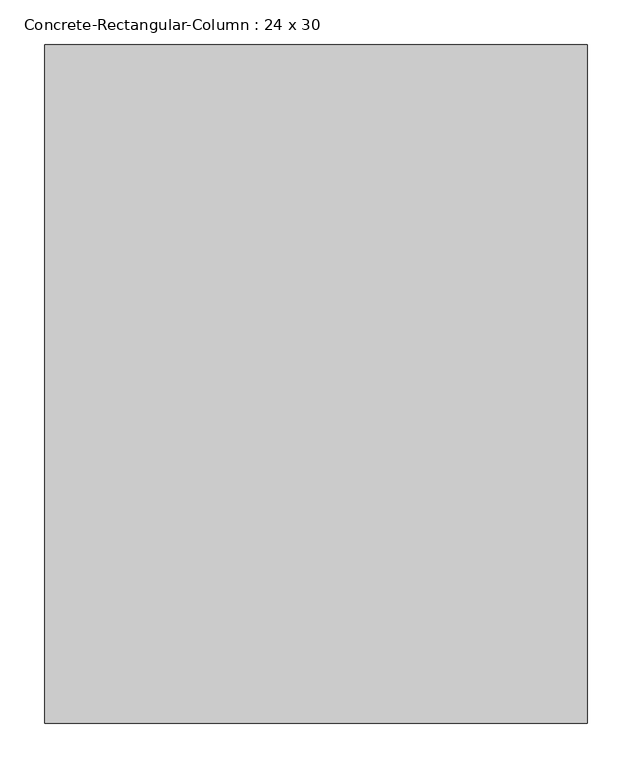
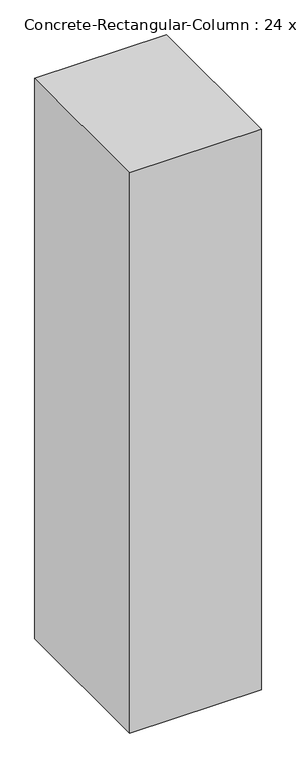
"""IFC4 building model written with IfcOpenShell, lengths in millimetres: column geometry, Concrete-Rectangular-Column : 24 x 30."""

import ifcopenshell
import ifcopenshell.guid

model = None  # the IFC model being written
_history = None  # IfcOwnerHistory: only IFC2X3 demands one
_inside = {}  # id of a spatial element -> (the spatial element, [elements in it])
_under = {}  # id of a project, library or spatial element -> (it, [spatial elements below it])
_declared = {}  # id of a project -> (the project, [libraries it declares])
_typed = {}  # id of a type object -> (the type object, [elements of that type])
_made_of = {}  # id of a material, layer set ... -> (it, [elements and type objects made of it])


def new_model(schema):
    """Start an empty IFC model of exactly this schema.

    Asked for "IFC4X3", IfcOpenShell would pick the latest addendum, in which some entities
    have other attributes; the version numbers below select the first issue.
    IFC2X3 requires an IfcOwnerHistory on every rooted entity: one is made here for all.
    """
    global model, _history
    if schema == "IFC4X3":
        model = ifcopenshell.file(schema_version=(4, 3, 0, 0))
    else:
        model = ifcopenshell.file(schema=schema)
    _inside.clear()
    _under.clear()
    _declared.clear()
    _typed.clear()
    _made_of.clear()
    _history = None
    if model.schema == "IFC2X3":
        org = make("IfcOrganization", Name="unknown")
        user = make(
            "IfcPersonAndOrganization",
            ThePerson=make("IfcPerson", FamilyName="unknown"),
            TheOrganization=org,
        )
        app = make(
            "IfcApplication",
            ApplicationDeveloper=org,
            Version="unknown",
            ApplicationFullName="unknown",
            ApplicationIdentifier="unknown",
        )
        _history = make(
            "IfcOwnerHistory",
            OwningUser=user,
            OwningApplication=app,
            ChangeAction="ADDED",
            CreationDate=0,
        )
    return model


def make(cls, **values):
    """One entity of the class cls with the attributes given. An attribute that is None is left unset."""
    return model.create_entity(
        cls, **{name: value for name, value in values.items() if value is not None}
    )


def rooted(cls, **values):
    """An entity with a GlobalId (a new one), such as an element, a storey or a relation."""
    return make(cls, GlobalId=ifcopenshell.guid.new(), OwnerHistory=_history, **values)


def si_unit(unit_type, name, prefix=None):
    """IfcSIUnit, for example si_unit("LENGTHUNIT", "METRE", prefix="MILLI")."""
    return make("IfcSIUnit", UnitType=unit_type, Prefix=prefix, Name=name)


def assignment(units):
    """IfcUnitAssignment: the units of a project."""
    return None if units is None else make("IfcUnitAssignment", Units=units)


def point(xyz):
    """IfcCartesianPoint."""
    return None if xyz is None else make("IfcCartesianPoint", Coordinates=xyz)


def direction(xyz):
    """IfcDirection."""
    return None if xyz is None else make("IfcDirection", DirectionRatios=xyz)


def frame(location, z_axis=None, x_axis=None):
    """IfcAxis2Placement3D, a coordinate frame: its origin and axes. An axis left out is left unset."""
    return make(
        "IfcAxis2Placement3D",
        Location=point(location),
        Axis=direction(z_axis),
        RefDirection=direction(x_axis),
    )


def origin():
    """The frame at (0, 0, 0) with its axes left unset."""
    return frame((0.0, 0.0, 0.0))


def place(relative_to, where):
    """IfcLocalPlacement: puts the frame where relative to a parent placement (None: the world)."""
    return make(
        "IfcLocalPlacement", PlacementRelTo=relative_to, RelativePlacement=where
    )


def context(
    kind, dimensions, precision=None, world=None, true_north=None, identifier=None
):
    """IfcGeometricRepresentationContext, for example the 3D "Model" context."""
    return make(
        "IfcGeometricRepresentationContext",
        ContextIdentifier=identifier,
        ContextType=kind,
        CoordinateSpaceDimension=dimensions,
        Precision=precision,
        WorldCoordinateSystem=world,
        TrueNorth=true_north,
    )


def project(units=None, contexts=None):
    """IfcProject with its units and contexts."""
    return rooted(
        "IfcProject",
        Name="project",
        RepresentationContexts=contexts,
        UnitsInContext=assignment(units),
    )


def spatial(cls, under=None, at=None, **own):
    """A site, building, storey or space (cls), placed at a placement, below another one or the project."""
    s = rooted(cls, ObjectPlacement=at, **own)
    if under is not None:
        _under.setdefault(under.id(), (under, []))[1].append(s)
    return s


def polyline(points):
    """IfcPolyline through the points."""
    return make("IfcPolyline", Points=[point(p) for p in points])


def outline(outer, holes=None, kind="AREA"):
    """IfcArbitraryClosedProfileDef: a profile drawn as a closed curve; with holes, ...WithVoids."""
    if holes is None:
        return make("IfcArbitraryClosedProfileDef", ProfileType=kind, OuterCurve=outer)
    return make(
        "IfcArbitraryProfileDefWithVoids",
        ProfileType=kind,
        OuterCurve=outer,
        InnerCurves=holes,
    )


def extrude(swept, where, along, depth):
    """IfcExtrudedAreaSolid: the profile swept, set in the frame where, extruded along a direction by depth."""
    return make(
        "IfcExtrudedAreaSolid",
        SweptArea=swept,
        Position=where,
        ExtrudedDirection=direction(along),
        Depth=depth,
    )


def shape(context_of_items, identifier, shape_type, items):
    """IfcShapeRepresentation: the items that make up one representation, for example the "Body"."""
    return make(
        "IfcShapeRepresentation",
        ContextOfItems=context_of_items,
        RepresentationIdentifier=identifier,
        RepresentationType=shape_type,
        Items=items,
    )


def source(mapping_origin, context_of_items, identifier, shape_type, items):
    """IfcRepresentationMap: a shape defined once, which mapped items show again and again."""
    return make(
        "IfcRepresentationMap",
        MappingOrigin=mapping_origin,
        MappedRepresentation=shape(context_of_items, identifier, shape_type, items),
    )


def transform(
    local_origin,
    x_axis=None,
    y_axis=None,
    z_axis=None,
    scale=None,
    scale2=None,
    scale3=None,
    uniform=True,
):
    """IfcCartesianTransformationOperator3D, or its non-uniform kind. x_axis, y_axis, z_axis: its Axis1, 2, 3."""
    if uniform:
        return make(
            "IfcCartesianTransformationOperator3D",
            Axis1=direction(x_axis),
            Axis2=direction(y_axis),
            LocalOrigin=point(local_origin),
            Scale=scale,
            Axis3=direction(z_axis),
        )
    return make(
        "IfcCartesianTransformationOperator3DnonUniform",
        Axis1=direction(x_axis),
        Axis2=direction(y_axis),
        LocalOrigin=point(local_origin),
        Scale=scale,
        Axis3=direction(z_axis),
        Scale2=scale2,
        Scale3=scale3,
    )


def mapped(mapping_source, mapping_target):
    """IfcMappedItem: shows the shape of a source again, moved by a transform."""
    return make(
        "IfcMappedItem", MappingSource=mapping_source, MappingTarget=mapping_target
    )


def made_of(thing, what):
    """Note that an element or type object is made of a material, layer set ...; save() writes the relation."""
    if what is not None:
        _made_of.setdefault(what.id(), (what, []))[1].append(thing)
    return thing


def element(
    cls,
    number,
    at=None,
    inside=None,
    cuts=None,
    type_object=None,
    material=None,
    context=None,
    identifier="Body",
    shape_type=None,
    held_by="IfcProductDefinitionShape",
    body=None,
    shapes=None,
    **own,
):
    """One element of the class cls, such as IfcWall. Its Tag is "e" and its number.

    at: its placement. inside: the storey or other place that contains it. cuts: it is an
    opening in that element (IfcRelVoidsElement). A single representation is given by context,
    identifier, shape_type and body (its items); several are given by shapes. held_by: the class
    of the entity that holds the representations. save() writes the other relations.
    """
    e = rooted(cls, Tag="e%d" % number, ObjectPlacement=at, **own)
    if body is not None:
        shapes = [shape(context, identifier, shape_type, body)]
    if shapes is not None:
        e.Representation = make(held_by, Representations=shapes)
    if inside is not None:
        _inside.setdefault(inside.id(), (inside, []))[1].append(e)
    if cuts is not None:
        rooted(
            "IfcRelVoidsElement", RelatingBuildingElement=cuts, RelatedOpeningElement=e
        )
    if type_object is not None:
        _typed.setdefault(type_object.id(), (type_object, []))[1].append(e)
    return made_of(e, material)


def aggregate(whole, parts):
    """IfcRelAggregates: a whole, such as a stair, and the parts it consists of."""
    return rooted("IfcRelAggregates", RelatingObject=whole, RelatedObjects=parts)


def save(model, path):
    """Write the relations noted so far, then the file.

    IfcRelAggregates (storeys below a building ...), IfcRelContainedInSpatialStructure (elements
    in a storey), IfcRelDefinesByType, IfcRelAssociatesMaterial and IfcRelDeclares: one each for
    every whole, place, type object, material and project.
    """
    for whole, parts in _under.values():
        aggregate(whole, parts)
    for where, things in _inside.values():
        rooted(
            "IfcRelContainedInSpatialStructure",
            RelatedElements=things,
            RelatingStructure=where,
        )
    for kind, things in _typed.values():
        rooted("IfcRelDefinesByType", RelatedObjects=things, RelatingType=kind)
    for what, things in _made_of.values():
        rooted("IfcRelAssociatesMaterial", RelatedObjects=things, RelatingMaterial=what)
    for by, libraries in _declared.values():
        rooted("IfcRelDeclares", RelatingContext=by, RelatedDefinitions=libraries)
    model.write(path)


def concrete_rectangular_column_24_x_30_a5d83863(model_context):
    return source(origin(), model_context, "Body", "SweptSolid", [
        extrude(outline(polyline([(304.8, 381.0), (304.8, -381.0), (-304.8, -381.0), (-304.8, 381.0), (304.8, 381.0)])), frame((0.0, 0.0, 3048.0), z_axis=(0.0, 0.0, 1.0), x_axis=(1.0, 0.0, 0.0)), (0.0, 0.0, 1.0), 2743.2),
    ])


if __name__ == "__main__":
    model = new_model("IFC4")
    model_context = context("Model", 3, world=origin())
    ifc_project = project(units=[si_unit("LENGTHUNIT", "METRE", prefix="MILLI")], contexts=[model_context])
    site = spatial("IfcSite", under=ifc_project)
    building = spatial("IfcBuilding", under=site)
    placement = place(None, origin())
    concrete_rectangular_column_24_x_30_shape = concrete_rectangular_column_24_x_30_a5d83863(model_context)
    element("IfcColumn", 1, ObjectType="Concrete-Rectangular-Column : 24 x 30", at=placement, inside=building, context=model_context, shape_type="MappedRepresentation", body=[
        mapped(concrete_rectangular_column_24_x_30_shape, transform((0.0, 0.0, 0.0), x_axis=(1.0, 0.0, 0.0), y_axis=(0.0, 1.0, 0.0), z_axis=(0.0, 0.0, 1.0))),
    ])
    save(model, "model.ifc")
